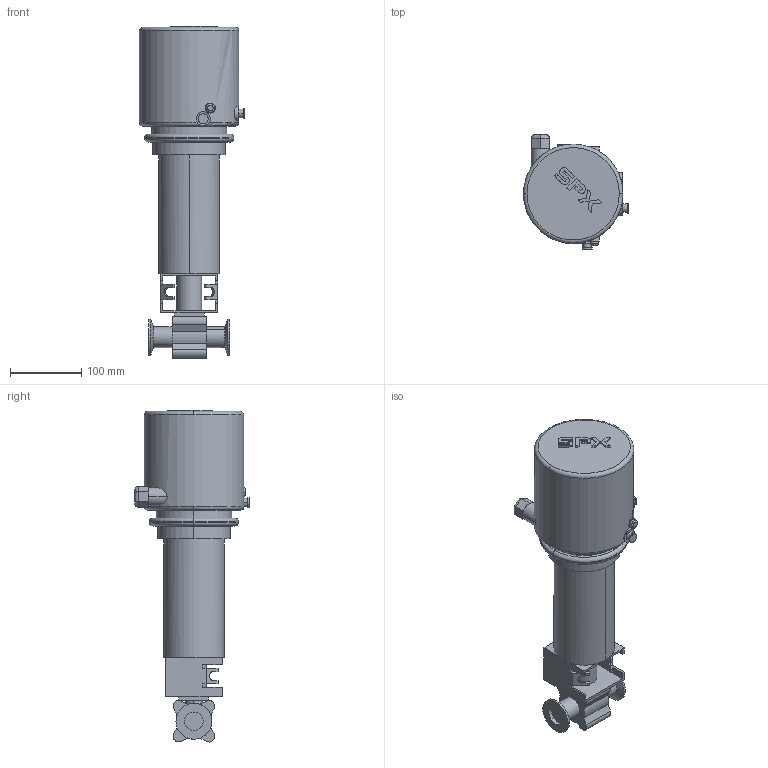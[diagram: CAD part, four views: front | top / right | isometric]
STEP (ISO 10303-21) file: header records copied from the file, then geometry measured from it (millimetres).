
FILE_DESCRIPTION(('Creo Elements/Direct Modeling STEP Export'),'2;1');
FILE_NAME('BLV1-DN25-NC-12CL-CU4.stp','2019-05-09T13:54:56',(''),(''),'Creo Elements/Direct Modeling STEP processor for AP214 (Solid Model)','Creo Elements/Direct Modeling 19.0F 14-Feb-2017 (C) Parametric Technology GmbH','');
FILE_SCHEMA(('AUTOMOTIVE_DESIGN { 1 0 10303 214 1 1 1 1 }'));
Length unit declared in the file: millimetre
Products named in the file (2): BLV1-DN25-NC-12CL-CU4
Assembly tree (1 placements, depth 2):
  BLV1-DN25-NC-12CL-CU4
    BLV1-DN25-NC-12CL-CU4
Bounding box: 148 x 161.4 x 467.21 mm (x, y, z)
Volume: 3756263.3 mm3; surface area: 234994.8 mm2
Topology: 1 solids, 3 shells, 253 faces, 650 edges, 422 vertices
Faces by surface type: plane 106, cylinder 92, extrusion 33, torus 10, cone 8, revolution 4
Full cylindrical faces by diameter (mm): 140 x1
Entity records: 11001 total; most frequent: CARTESIAN_POINT 5277, ORIENTED_EDGE 1294, DIRECTION 988, EDGE_CURVE 647, VERTEX_POINT 422, VECTOR 332, AXIS2_PLACEMENT_3D 326, LINE 299
